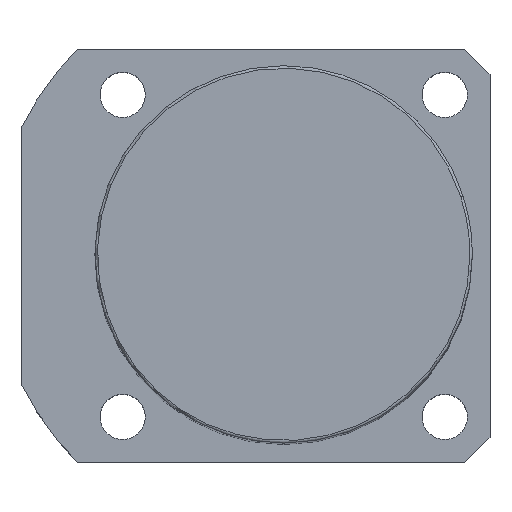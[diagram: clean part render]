
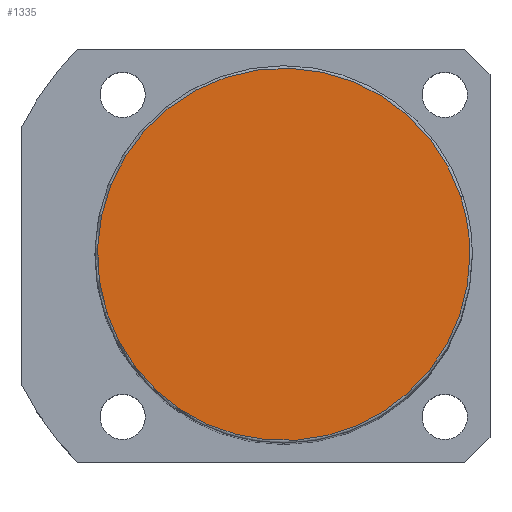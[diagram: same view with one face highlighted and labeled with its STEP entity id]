
A CAD part, top view. The second image highlights one B-rep face of the part: STEP entity #1335.
In plain terms, the highlighted planar face has unit normal (0, 0, 1).
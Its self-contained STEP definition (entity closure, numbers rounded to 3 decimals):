
#1268=CARTESIAN_POINT('',(35.189,11.434,183.0));
#1269=VERTEX_POINT('',#1268);
#1287=CARTESIAN_POINT('',(-35.189,-11.434,183.0));
#1288=VERTEX_POINT('',#1287);
#1296=CARTESIAN_POINT('',(0.0,0.0,183.0));
#1297=DIRECTION('',(0.0,0.0,1.0));
#1298=DIRECTION('',(1.0,0.0,0.0));
#1299=AXIS2_PLACEMENT_3D('',#1296,#1297,#1298);
#1300=CIRCLE('',#1299,37.0);
#1301=EDGE_CURVE('no 3994',#1269,#1288,#1300,.T.);
#1311=CARTESIAN_POINT('',(37.0,0.0,183.0));
#1312=VERTEX_POINT('',#1311);
#1313=CARTESIAN_POINT('',(0.0,0.0,183.0));
#1314=DIRECTION('',(0.0,0.0,1.0));
#1315=DIRECTION('',(1.0,0.0,0.0));
#1316=AXIS2_PLACEMENT_3D('',#1313,#1314,#1315);
#1317=CIRCLE('',#1316,37.0);
#1318=EDGE_CURVE('no 4003',#1312,#1269,#1317,.T.);
#1319=ORIENTED_EDGE('',*,*,#1318,.T.);
#1320=ORIENTED_EDGE('',*,*,#1301,.T.);
#1321=CARTESIAN_POINT('',(0.0,0.0,183.0));
#1322=DIRECTION('',(0.0,0.0,1.0));
#1323=DIRECTION('',(1.0,0.0,0.0));
#1324=AXIS2_PLACEMENT_3D('',#1321,#1322,#1323);
#1325=CIRCLE('',#1324,37.0);
#1326=EDGE_CURVE('no 4009',#1288,#1312,#1325,.T.);
#1327=ORIENTED_EDGE('',*,*,#1326,.T.);
#1328=EDGE_LOOP('',(#1319,#1320,#1327));
#1329=FACE_OUTER_BOUND('',#1328,.T.);
#1330=CARTESIAN_POINT('',(0.0,0.0,183.0));
#1331=DIRECTION('',(0.0,0.0,1.0));
#1332=DIRECTION('',(1.0,0.0,0.0));
#1333=AXIS2_PLACEMENT_3D('',#1330,#1331,#1332);
#1334=PLANE('',#1333);
#1335=ADVANCED_FACE('no 3996',(#1329),#1334,.T.);
